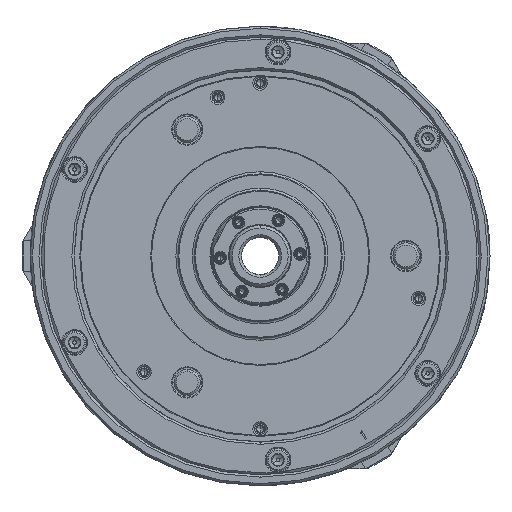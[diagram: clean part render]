
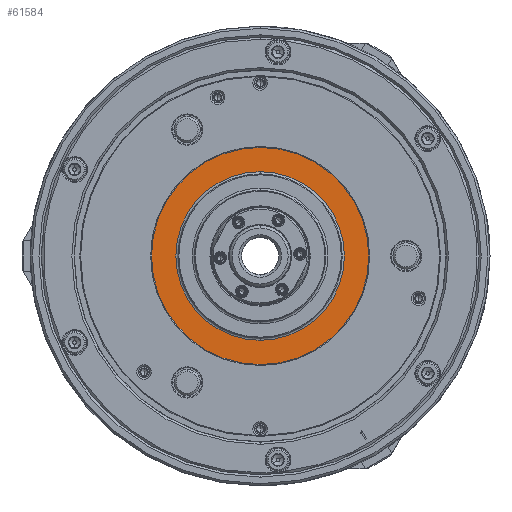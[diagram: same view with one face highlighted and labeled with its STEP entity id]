
A CAD part, left-side view. The second image highlights one B-rep face of the part: STEP entity #61584.
In plain terms, the highlighted planar face has unit normal (-1, 0, 0) as drawn and (0, 0, -1) by its records, which use the part's own axes.
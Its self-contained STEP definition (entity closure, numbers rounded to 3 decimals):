
#4307 = DIRECTION ( 'NONE',  ( 0., 0., -1. ) ) ;
#5431 = AXIS2_PLACEMENT_3D ( 'NONE', #28469, #96213, #147207 ) ;
#10963 = VERTEX_POINT ( 'NONE', #117161 ) ;
#15075 = ORIENTED_EDGE ( 'NONE', *, *, #116327, .T. ) ;
#25826 = VERTEX_POINT ( 'NONE', #79414 ) ;
#28469 = CARTESIAN_POINT ( 'NONE',  ( 0., 0., -104.8 ) ) ;
#30904 = VERTEX_POINT ( 'NONE', #54546 ) ;
#39925 = DIRECTION ( 'NONE',  ( 1., 0., 0. ) ) ;
#41149 = EDGE_LOOP ( 'NONE', ( #123894, #15075 ) ) ;
#54411 = DIRECTION ( 'NONE',  ( 0., 0., 1. ) ) ;
#54546 = CARTESIAN_POINT ( 'NONE',  ( -49.616, 0., -104.8 ) ) ;
#58659 = CARTESIAN_POINT ( 'NONE',  ( 0., 0., -104.8 ) ) ;
#61584 = ADVANCED_FACE ( 'NONE', ( #138722, #125368 ), #206565, .F. ) ;
#64338 = CIRCLE ( 'NONE', #92756, 49.616 ) ;
#66565 = CARTESIAN_POINT ( 'NONE',  ( 0., 0., -104.8 ) ) ;
#77066 = EDGE_CURVE ( 'NONE', #10963, #160463, #104005, .T. ) ;
#79414 = CARTESIAN_POINT ( 'NONE',  ( 49.616, 0., -104.8 ) ) ;
#80339 = AXIS2_PLACEMENT_3D ( 'NONE', #200507, #214996, #178383 ) ;
#85427 = EDGE_LOOP ( 'NONE', ( #184277, #139834 ) ) ;
#92756 = AXIS2_PLACEMENT_3D ( 'NONE', #66565, #135338, #134232 ) ;
#92997 = CARTESIAN_POINT ( 'NONE',  ( -38.5, 0., -104.8 ) ) ;
#96213 = DIRECTION ( 'NONE',  ( 0., 0., -1. ) ) ;
#104005 = CIRCLE ( 'NONE', #121725, 38.5 ) ;
#116327 = EDGE_CURVE ( 'NONE', #25826, #30904, #64338, .T. ) ;
#117161 = CARTESIAN_POINT ( 'NONE',  ( 38.5, 0., -104.8 ) ) ;
#121725 = AXIS2_PLACEMENT_3D ( 'NONE', #58659, #4307, #126335 ) ;
#123894 = ORIENTED_EDGE ( 'NONE', *, *, #135493, .T. ) ;
#125368 = FACE_OUTER_BOUND ( 'NONE', #41149, .T. ) ;
#126335 = DIRECTION ( 'NONE',  ( -1., 0., 0. ) ) ;
#126461 = CARTESIAN_POINT ( 'NONE',  ( 0., 0., -104.8 ) ) ;
#134232 = DIRECTION ( 'NONE',  ( -1., 0., 0. ) ) ;
#135338 = DIRECTION ( 'NONE',  ( 0., 0., -1. ) ) ;
#135493 = EDGE_CURVE ( 'NONE', #30904, #25826, #165425, .T. ) ;
#138722 = FACE_BOUND ( 'NONE', #85427, .T. ) ;
#139834 = ORIENTED_EDGE ( 'NONE', *, *, #77066, .F. ) ;
#143241 = AXIS2_PLACEMENT_3D ( 'NONE', #126461, #54411, #39925 ) ;
#147207 = DIRECTION ( 'NONE',  ( -1., 0., 0. ) ) ;
#151200 = CIRCLE ( 'NONE', #5431, 38.5 ) ;
#159708 = EDGE_CURVE ( 'NONE', #160463, #10963, #151200, .T. ) ;
#160463 = VERTEX_POINT ( 'NONE', #92997 ) ;
#165425 = CIRCLE ( 'NONE', #80339, 49.616 ) ;
#178383 = DIRECTION ( 'NONE',  ( -1., 0., 0. ) ) ;
#184277 = ORIENTED_EDGE ( 'NONE', *, *, #159708, .F. ) ;
#200507 = CARTESIAN_POINT ( 'NONE',  ( 0., 0., -104.8 ) ) ;
#206565 = PLANE ( 'NONE',  #143241 ) ;
#214996 = DIRECTION ( 'NONE',  ( 0., 0., -1. ) ) ;
